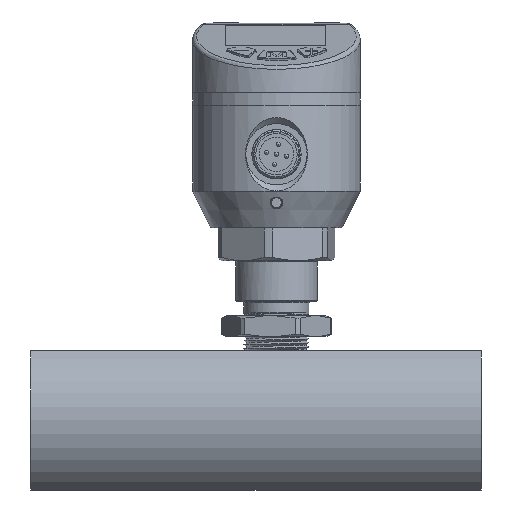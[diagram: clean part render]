
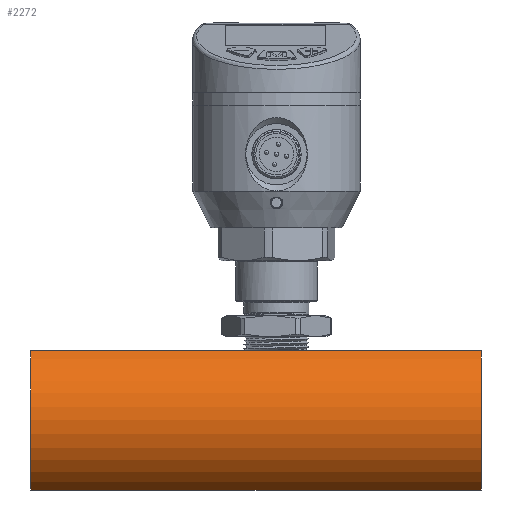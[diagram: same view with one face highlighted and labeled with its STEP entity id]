
A CAD part, left-side view. The second image highlights one B-rep face of the part: STEP entity #2272.
In plain terms, the highlighted cylindrical face has radius 20 mm (diameter 40 mm), a partial arc.
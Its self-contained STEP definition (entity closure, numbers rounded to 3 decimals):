
#2272=ADVANCED_FACE('',(#2853),#2715,.T.);
#2715=CYLINDRICAL_SURFACE('',#8469,20.);
#2853=FACE_OUTER_BOUND('',#3210,.T.);
#3210=EDGE_LOOP('',(#4113,#4114,#4115,#4116));
#3753=CIRCLE('',#8467,20.);
#3754=CIRCLE('',#8468,20.);
#4113=ORIENTED_EDGE('',*,*,#6714,.F.);
#4114=ORIENTED_EDGE('',*,*,#6715,.T.);
#4115=ORIENTED_EDGE('',*,*,#6716,.F.);
#4116=ORIENTED_EDGE('',*,*,#6717,.T.);
#6073=VERTEX_POINT('',#11107);
#6074=VERTEX_POINT('',#11108);
#6075=VERTEX_POINT('',#11110);
#6076=VERTEX_POINT('',#11112);
#6714=EDGE_CURVE('',#6073,#6074,#7694,.T.);
#6715=EDGE_CURVE('',#6073,#6075,#3753,.T.);
#6716=EDGE_CURVE('',#6076,#6075,#7695,.T.);
#6717=EDGE_CURVE('',#6076,#6074,#3754,.T.);
#7694=LINE('',#11106,#8080);
#7695=LINE('',#11111,#8081);
#8080=VECTOR('',#9219,1.);
#8081=VECTOR('',#9222,1.);
#8467=AXIS2_PLACEMENT_3D('',#11109,#9220,#9221);
#8468=AXIS2_PLACEMENT_3D('',#11113,#9223,#9224);
#8469=AXIS2_PLACEMENT_3D('',#11114,#9225,#9226);
#9219=DIRECTION('',(0.,1.,0.));
#9220=DIRECTION('',(0.,1.,0.));
#9221=DIRECTION('',(-1.,0.,0.));
#9222=DIRECTION('',(0.,-1.,0.));
#9223=DIRECTION('',(0.,-1.,0.));
#9224=DIRECTION('',(-1.,0.,0.));
#9225=DIRECTION('',(0.,-1.,0.));
#9226=DIRECTION('',(-1.,0.,0.));
#11106=CARTESIAN_POINT('',(14.964,101.9,-128.));
#11107=CARTESIAN_POINT('',(14.964,-13.6,-128.));
#11108=CARTESIAN_POINT('',(14.964,96.4,-128.));
#11109=CARTESIAN_POINT('',(25.5,-13.6,-111.));
#11110=CARTESIAN_POINT('',(14.964,-13.6,-94.));
#11111=CARTESIAN_POINT('',(14.964,101.9,-94.));
#11112=CARTESIAN_POINT('',(14.964,96.4,-94.));
#11113=CARTESIAN_POINT('',(25.5,96.4,-111.));
#11114=CARTESIAN_POINT('',(25.5,101.9,-111.));
